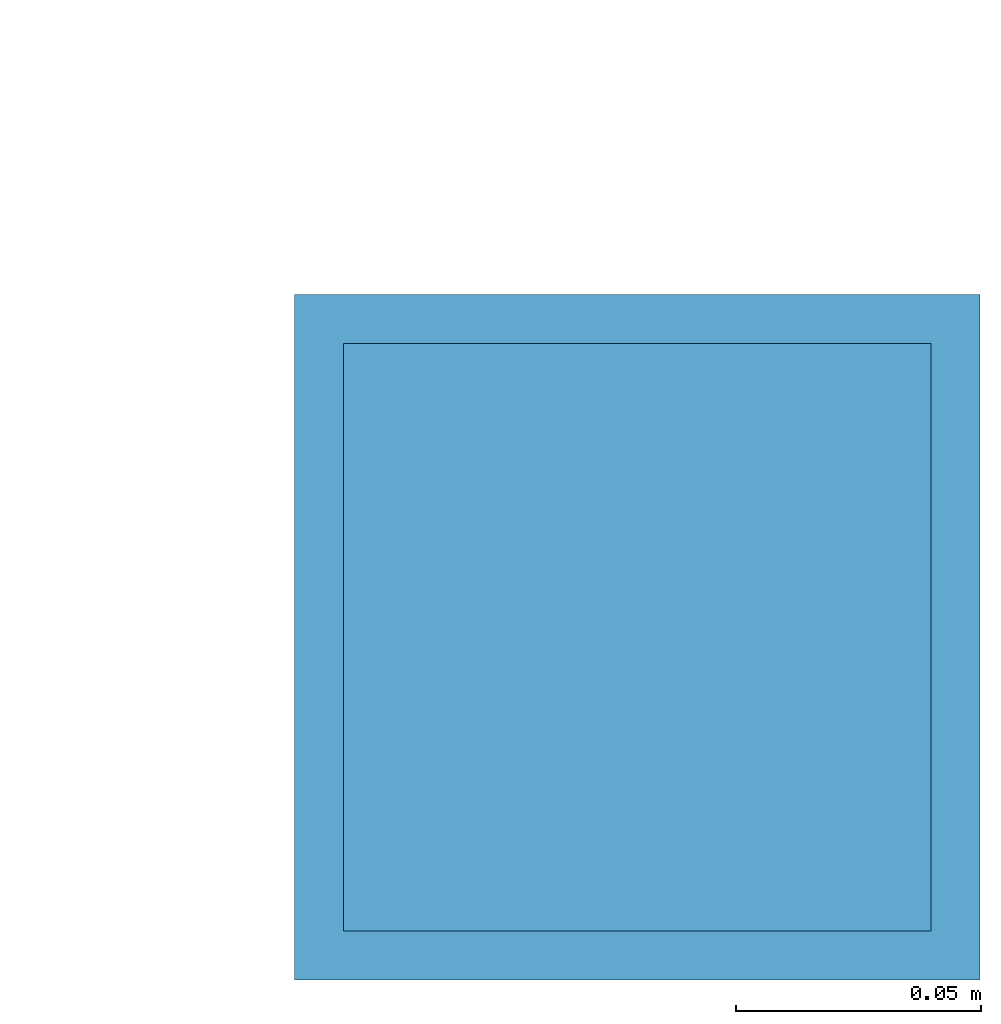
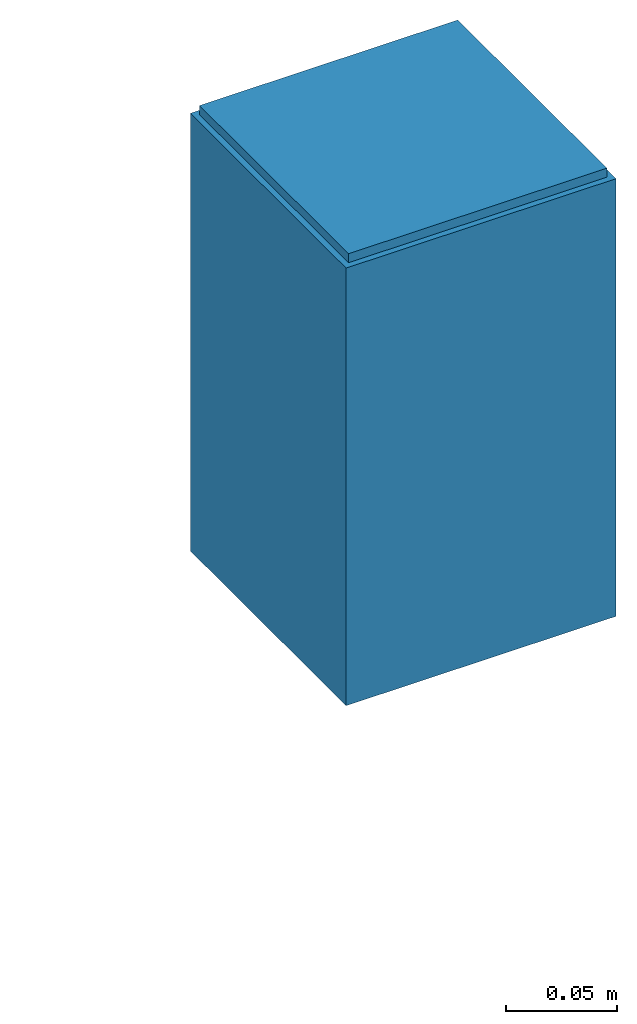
# One storey, part 2 of 2: 2 columns.
"""IFC2X3 building model written with IfcOpenShell, lengths in millimetres."""

from ifc_helpers import new_model, entity, si_unit, converted_unit, derived_unit, direction, frame, origin_with_axes, place, context, subcontext, project, spatial, faceted_brep, material, type_object, element, save


model = new_model("IFC2X3")

# Units and contexts
model_context = context("Model", 3, precision=0.01, world=frame((0.0, 4.29681676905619e-09, 0.0)), true_north=direction((4.01073788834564e-13, 1.0)))
plan_context = context("Plan", 3, precision=0.01, world=frame((0.0, 4.29681676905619e-09, 0.0)), true_north=direction((4.01073788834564e-13, 1.0)))
body_context = subcontext(model_context, "Body", "Model", "MODEL_VIEW")
ifc_project = project(units=[converted_unit("PLANEANGLEUNIT", "DEGREE", entity("IfcPositiveLengthMeasure", 0.0174532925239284), si_unit("PLANEANGLEUNIT", "RADIAN"), dimensions=[0, 0, 0, 0, 0, 0, 0]), si_unit("AREAUNIT", "SQUARE_METRE"), si_unit("LENGTHUNIT", "METRE", prefix="MILLI"), si_unit("MASSUNIT", "GRAM", prefix="KILO"), si_unit("POWERUNIT", "WATT"), si_unit("PRESSUREUNIT", "PASCAL", prefix="KILO"), si_unit("FORCEUNIT", "NEWTON", prefix="KILO"), si_unit("ELECTRICVOLTAGEUNIT", "VOLT"), si_unit("ELECTRICCURRENTUNIT", "AMPERE"), si_unit("THERMODYNAMICTEMPERATUREUNIT", "DEGREE_CELSIUS"), si_unit("TIMEUNIT", "SECOND"), si_unit("VOLUMEUNIT", "CUBIC_METRE"), derived_unit("LINEARVELOCITYUNIT", [(si_unit("LENGTHUNIT", "METRE"), 1), (si_unit("TIMEUNIT", "SECOND"), -1)]), derived_unit("VOLUMETRICFLOWRATEUNIT", [(si_unit("VOLUMEUNIT", "CUBIC_METRE"), 1), (si_unit("TIMEUNIT", "SECOND"), -1)]), derived_unit("THERMALTRANSMITTANCEUNIT", [(si_unit("POWERUNIT", "WATT"), 1), (si_unit("THERMODYNAMICTEMPERATUREUNIT", "KELVIN"), -1), (si_unit("AREAUNIT", "SQUARE_METRE"), -1)]), derived_unit("SOUNDPRESSUREUNIT", [(si_unit("PRESSUREUNIT", "PASCAL"), 1)])], contexts=[model_context, plan_context])

# Site, building, storey
site_placement = place(None, frame((0.0, -4.29681676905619e-09, 0.0), z_axis=(0.0, 0.0, 1.0), x_axis=(1.0, 0.0, 0.0)))
site = spatial("IfcSite", under=ifc_project, at=site_placement, Name="Gardermoen", CompositionType="ELEMENT")
building_placement = place(site_placement, frame((0.0, 4.29681676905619e-09, 0.0), z_axis=(0.0, 0.0, 1.0), x_axis=(1.0, 0.0, 0.0)))
building = spatial("IfcBuilding", under=site, at=building_placement, Name="TG", CompositionType="ELEMENT")
storey_placement = place(building_placement, origin_with_axes())
storey = spatial("IfcBuildingStorey", under=building, at=storey_placement, Name="D", CompositionType="ELEMENT", Elevation=0.0)

# Columns
ifc_material_1 = material(Name="STEEL/S355J0")
column_type_1 = type_object("IfcColumnType", Name="PL5*134", PredefinedType="NOTDEFINED")
column_1_placement = place(storey_placement, frame((349067.0, 458725.0, 209567.5), z_axis=(0.0, 1.0, 0.0), x_axis=(-1.0, 0.0, 0.0)))
element("IfcColumn", 1, at=column_1_placement, inside=storey, type_object=column_type_1, material=ifc_material_1, Name="STÅLSØYLE", ObjectType="PL5*134", context=body_context, shape_type="Brep", body=[
    faceted_brep([(0.0, 2.5, -67.0), (0.0, 2.5, 67.0), (134.0, 2.5, 67.0), (134.0, 2.5, -67.0), (0.0, -2.5, 67.0), (134.0, -2.5, 67.0), (0.0, -2.5, -67.0), (134.0, -2.5, -67.0)], [[[0, 1, 2, 3]], [[1, 4, 5, 2]], [[4, 6, 7, 5]], [[6, 0, 3, 7]], [[5, 7, 3, 2]], [[6, 4, 1, 0]]]),
])
ifc_material_2 = material(Name="STEEL/S355")
column_type_2 = type_object("IfcColumnType", Name="RHS140*10", PredefinedType="NOTDEFINED")
column_2_placement = place(storey_placement, frame((349000.0, 458725.0, 209325.01), z_axis=(-1.0, 0.0, 0.0), x_axis=(0.0, 0.0, 1.0)))
element("IfcColumn", 2, at=column_2_placement, inside=storey, type_object=column_type_2, material=ifc_material_2, Name="STÅLSØYLE", ObjectType="RHS140*10", context=body_context, shape_type="Brep", body=[
    faceted_brep([(0.0, 60.0, -60.0), (0.0, -60.0, -60.0), (239.989999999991, -60.0, -60.0), (239.989999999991, 60.0, -60.0), (0.0, -60.0, 60.0), (239.989999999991, -60.0, 60.0), (0.0, 60.0, 60.0), (239.989999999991, 60.0, 60.0), (1.16415321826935e-10, 70.0, -69.9999999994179), (-5.82076609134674e-11, 70.0, 69.9999999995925), (239.989999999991, 70.0, 70.0), (239.989999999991, 70.0, -70.0), (0.0, -70.0, 70.0), (239.989999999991, -70.0, 70.0), (1.16415321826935e-10, -70.0, -69.9999999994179), (239.989999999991, -70.0, -70.0)], [[[0, 1, 2, 3]], [[1, 4, 5, 2]], [[4, 6, 7, 5]], [[6, 0, 3, 7]], [[8, 9, 10, 11]], [[9, 12, 13, 10]], [[12, 14, 15, 13]], [[14, 8, 11, 15]], [[13, 15, 11, 10], [5, 7, 3, 2]], [[14, 12, 9, 8], [6, 4, 1, 0]]]),
])

save(model, "model.ifc")
